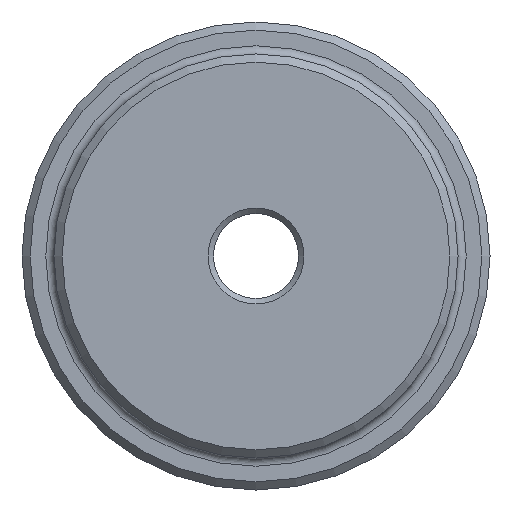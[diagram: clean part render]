
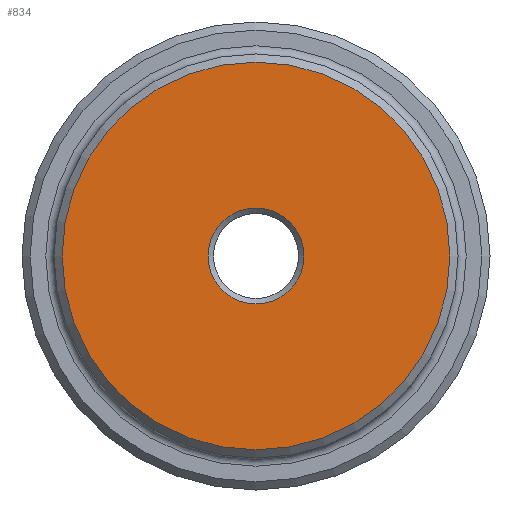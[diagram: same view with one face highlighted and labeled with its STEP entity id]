
A CAD part, left-side view. The second image highlights one B-rep face of the part: STEP entity #834.
In plain terms, the highlighted planar face has unit normal (-1, 0, 0).
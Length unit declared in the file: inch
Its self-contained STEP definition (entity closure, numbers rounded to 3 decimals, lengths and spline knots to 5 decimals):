
#3 = DIRECTION ( 'NONE',  ( 0., 0., -1. ) ) ;
#339 = ORIENTED_EDGE ( 'NONE', *, *, #1435, .T. ) ;
#432 = AXIS2_PLACEMENT_3D ( 'NONE', #813, #1791, #3 ) ;
#486 = PLANE ( 'NONE',  #930 ) ;
#513 = FACE_BOUND ( 'NONE', #559, .T. ) ;
#559 = EDGE_LOOP ( 'NONE', ( #339 ) ) ;
#672 = DIRECTION ( 'NONE',  ( 1., 0., 0. ) ) ;
#777 = CIRCLE ( 'NONE', #432, 1.425 ) ;
#791 = CARTESIAN_POINT ( 'NONE',  ( 0., 0., 0. ) ) ;
#794 = EDGE_CURVE ( 'NONE', #1430, #1430, #777, .T. ) ;
#813 = CARTESIAN_POINT ( 'NONE',  ( 0., 0., 0. ) ) ;
#834 = ADVANCED_FACE ( 'NONE', ( #513, #1497 ), #486, .F. ) ;
#849 = ORIENTED_EDGE ( 'NONE', *, *, #794, .T. ) ;
#930 = AXIS2_PLACEMENT_3D ( 'NONE', #791, #1257, #1040 ) ;
#1010 = CARTESIAN_POINT ( 'NONE',  ( 0., 0., 0. ) ) ;
#1040 = DIRECTION ( 'NONE',  ( 0., 0., -1. ) ) ;
#1111 = CARTESIAN_POINT ( 'NONE',  ( 0., 0., -1.425 ) ) ;
#1144 = CARTESIAN_POINT ( 'NONE',  ( 0., 0., -0.35265 ) ) ;
#1257 = DIRECTION ( 'NONE',  ( 1., 0., 0. ) ) ;
#1285 = EDGE_LOOP ( 'NONE', ( #849 ) ) ;
#1430 = VERTEX_POINT ( 'NONE', #1111 ) ;
#1435 = EDGE_CURVE ( 'NONE', #1464, #1464, #1754, .T. ) ;
#1464 = VERTEX_POINT ( 'NONE', #1144 ) ;
#1497 = FACE_OUTER_BOUND ( 'NONE', #1285, .T. ) ;
#1573 = AXIS2_PLACEMENT_3D ( 'NONE', #1010, #672, #1644 ) ;
#1644 = DIRECTION ( 'NONE',  ( 0., 0., -1. ) ) ;
#1754 = CIRCLE ( 'NONE', #1573, 0.35265 ) ;
#1791 = DIRECTION ( 'NONE',  ( -1., 0., 0. ) ) ;
